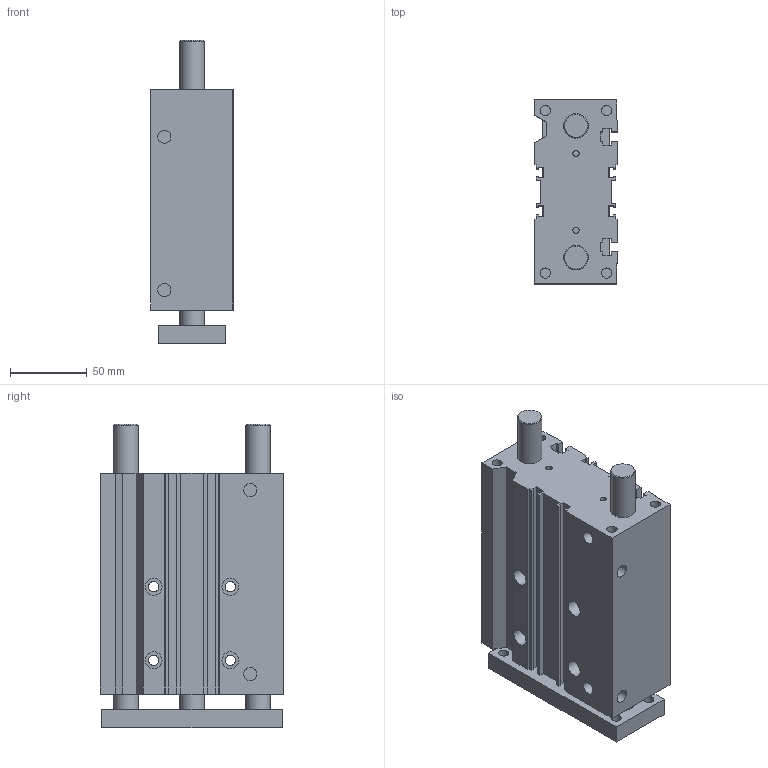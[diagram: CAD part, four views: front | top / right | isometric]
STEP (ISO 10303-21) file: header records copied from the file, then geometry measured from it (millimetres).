
FILE_DESCRIPTION((''),'2;1');
FILE_NAME('I:\Area Tecnica\Disegni\VARIE-3D\Componenti\6100\6100 Ø20-63\6100_##_###_#\6100400100C.stp','2012-01-11T09:05:29',('airolcr1'),(''),'Autodesk Inventor 2012','Autodesk Inventor 2012','');
FILE_SCHEMA(('AUTOMOTIVE_DESIGN { 1 0 10303 214 1 1 1 1 }'));
Length unit declared in the file: millimetre
Products named in the file (3): 6100400100C; CUCORPO Ø40 C100 C; CUPIASTRA Ø40 C100 C
Assembly tree (2 placements, depth 2):
  6100400100C
    CUCORPO Ø40 C100 C
    CUPIASTRA Ø40 C100 C
Bounding box: 54 x 120 x 198 mm (x, y, z)
Volume: 927897.5 mm3; surface area: 143266.6 mm2
Topology: 2 solids, 2 shells, 166 faces, 417 edges, 277 vertices
Faces by surface type: plane 126, cylinder 38, cone 2
Full cylindrical faces by diameter (mm): 4 x6, 6.647 x8, 6.65 x4, 8.566 x4, 11 x4, 16 x6
Entity records: 5013 total; most frequent: CARTESIAN_POINT 815, DIRECTION 798, ORIENTED_EDGE 750, EDGE_CURVE 375, VECTOR 294, LINE 294, VERTEX_POINT 269, AXIS2_PLACEMENT_3D 252
